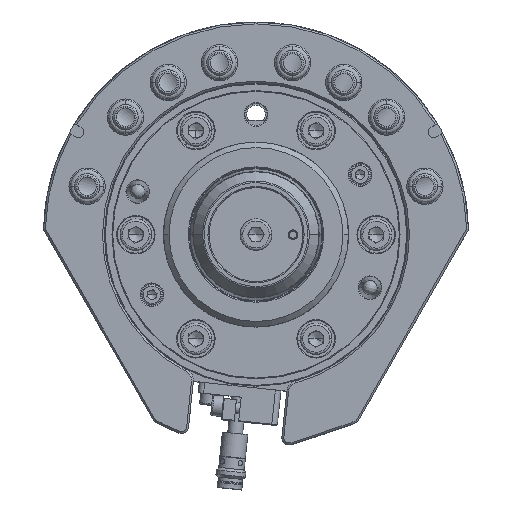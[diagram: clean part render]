
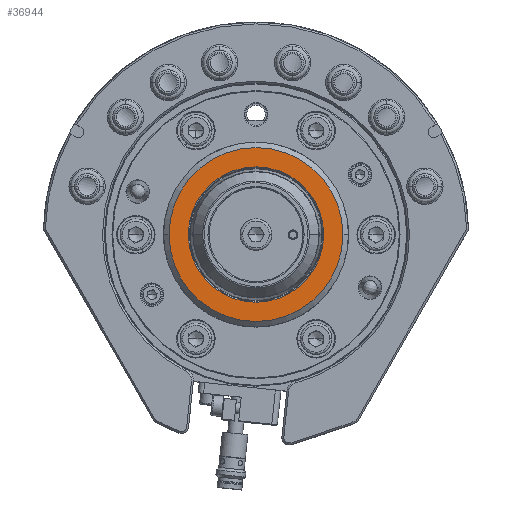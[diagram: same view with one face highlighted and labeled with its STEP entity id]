
A CAD part, top view. The second image highlights one B-rep face of the part: STEP entity #36944.
In plain terms, the highlighted planar face has unit normal (0, 0, 1).
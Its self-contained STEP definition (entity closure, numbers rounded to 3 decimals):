
#868 = CARTESIAN_POINT ( 'NONE',  ( 23.5, 0., 18. ) ) ;
#2795 = DIRECTION ( 'NONE',  ( 0., 0., -1. ) ) ;
#4557 = DIRECTION ( 'NONE',  ( 0., 0., -1. ) ) ;
#6728 = AXIS2_PLACEMENT_3D ( 'NONE', #36391, #50441, #22548 ) ;
#8853 = DIRECTION ( 'NONE',  ( 0., 0., -1. ) ) ;
#10377 = ORIENTED_EDGE ( 'NONE', *, *, #53726, .T. ) ;
#16951 = VERTEX_POINT ( 'NONE', #32071 ) ;
#17290 = EDGE_CURVE ( 'NONE', #22858, #16951, #33707, .T. ) ;
#19913 = DIRECTION ( 'NONE',  ( 0., 0., -1. ) ) ;
#21955 = EDGE_LOOP ( 'NONE', ( #40378, #42364 ) ) ;
#22548 = DIRECTION ( 'NONE',  ( 1., 0., 0. ) ) ;
#22858 = VERTEX_POINT ( 'NONE', #868 ) ;
#23991 = VERTEX_POINT ( 'NONE', #38270 ) ;
#25069 = AXIS2_PLACEMENT_3D ( 'NONE', #32646, #4557, #37314 ) ;
#25525 = FACE_BOUND ( 'NONE', #44675, .T. ) ;
#26206 = ORIENTED_EDGE ( 'NONE', *, *, #42115, .T. ) ;
#28944 = CIRCLE ( 'NONE', #25069, 18.3 ) ;
#30343 = AXIS2_PLACEMENT_3D ( 'NONE', #36838, #8853, #41536 ) ;
#30872 = CARTESIAN_POINT ( 'NONE',  ( 0., 0., 18. ) ) ;
#31044 = CIRCLE ( 'NONE', #30343, 23.5 ) ;
#32071 = CARTESIAN_POINT ( 'NONE',  ( -23.5, 0., 18. ) ) ;
#32634 = EDGE_CURVE ( 'NONE', #16951, #22858, #31044, .T. ) ;
#32646 = CARTESIAN_POINT ( 'NONE',  ( 0., 0., 18. ) ) ;
#33707 = CIRCLE ( 'NONE', #48516, 23.5 ) ;
#34483 = CARTESIAN_POINT ( 'NONE',  ( 18.3, 0., 18. ) ) ;
#35553 = DIRECTION ( 'NONE',  ( -1., 0., 0. ) ) ;
#36391 = CARTESIAN_POINT ( 'NONE',  ( -23.782, 23.782, 18. ) ) ;
#36504 = FACE_OUTER_BOUND ( 'NONE', #21955, .T. ) ;
#36838 = CARTESIAN_POINT ( 'NONE',  ( 0., 0., 18. ) ) ;
#36944 = ADVANCED_FACE ( 'NONE', ( #25525, #36504 ), #45755, .T. ) ;
#37314 = DIRECTION ( 'NONE',  ( 1., 0., 0. ) ) ;
#38270 = CARTESIAN_POINT ( 'NONE',  ( -18.3, 0., 18. ) ) ;
#40378 = ORIENTED_EDGE ( 'NONE', *, *, #32634, .F. ) ;
#41536 = DIRECTION ( 'NONE',  ( -1., 0., 0. ) ) ;
#42115 = EDGE_CURVE ( 'NONE', #23991, #52214, #59798, .T. ) ;
#42364 = ORIENTED_EDGE ( 'NONE', *, *, #17290, .F. ) ;
#44675 = EDGE_LOOP ( 'NONE', ( #10377, #26206 ) ) ;
#45755 = PLANE ( 'NONE',  #6728 ) ;
#47638 = AXIS2_PLACEMENT_3D ( 'NONE', #47820, #19913, #52507 ) ;
#47820 = CARTESIAN_POINT ( 'NONE',  ( 0., 0., 18. ) ) ;
#48516 = AXIS2_PLACEMENT_3D ( 'NONE', #30872, #2795, #35553 ) ;
#50441 = DIRECTION ( 'NONE',  ( 0., 0., 1. ) ) ;
#52214 = VERTEX_POINT ( 'NONE', #34483 ) ;
#52507 = DIRECTION ( 'NONE',  ( 1., 0., 0. ) ) ;
#53726 = EDGE_CURVE ( 'NONE', #52214, #23991, #28944, .T. ) ;
#59798 = CIRCLE ( 'NONE', #47638, 18.3 ) ;
